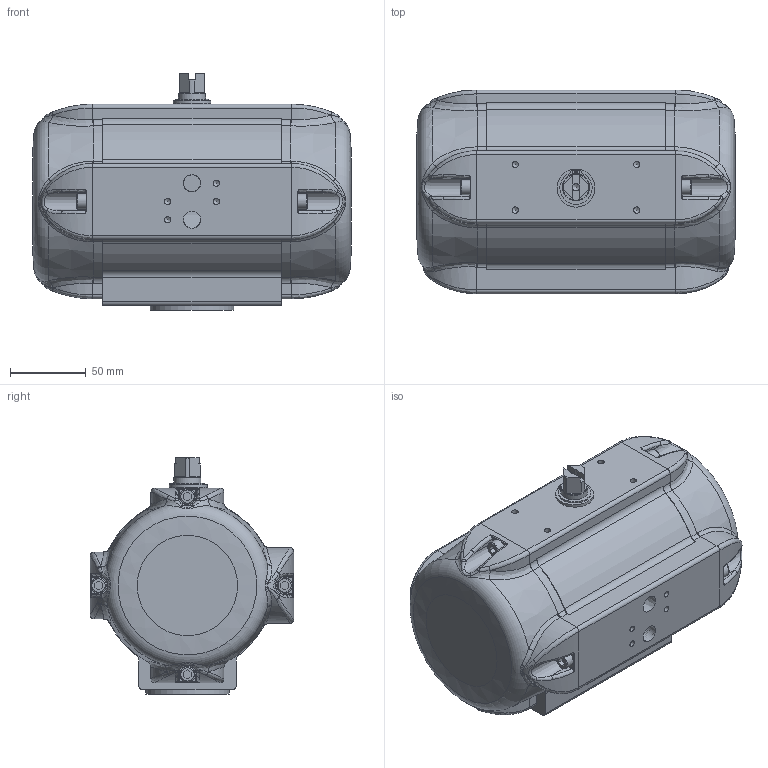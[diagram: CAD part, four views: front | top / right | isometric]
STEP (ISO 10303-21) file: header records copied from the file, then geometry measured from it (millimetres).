
FILE_DESCRIPTION((''),'2;1');
FILE_NAME('C:\Dokumente und Einstellungen\kir\Desktop\STEP IGES\SAF\SAF 20 BR03.stp','2006-12-19T11:06:14',('kir'),(''),'Autodesk Inventor 10','Autodesk Inventor 10','');
FILE_SCHEMA(('AUTOMOTIVE_DESIGN { 1 0 10303 214 1 1 1 1 }'));
Length unit declared in the file: millimetre
Products named in the file (1): ENG-039883
Bounding box: 209.5 x 134 x 155.5 mm (x, y, z)
Volume: 789765 mm3; surface area: 216779.5 mm2
Topology: 1 solids, 17 shells, 853 faces, 2101 edges, 1284 vertices
Faces by surface type: bspline 353, plane 240, cylinder 186, cone 55, torus 19
Full cylindrical faces by diameter (mm): 1.7 x2, 4.917 x4, 6 x8, 6.5 x6, 10 x8, 14 x3, 16.7 x1, 17 x1, 17.8 x4, 18 x2, 18.1 x1, 25 x1, 28 x1, 31 x3, 34.8 x3, 55 x1, 100 x1, 103 x1, 105.07 x2
Entity records: 47568 total; most frequent: CARTESIAN_POINT 30441, ORIENTED_EDGE 3702, DIRECTION 2978, EDGE_CURVE 1851, VERTEX_POINT 1197, AXIS2_PLACEMENT_3D 1195, EDGE_LOOP 1056, FACE_OUTER_BOUND 853
